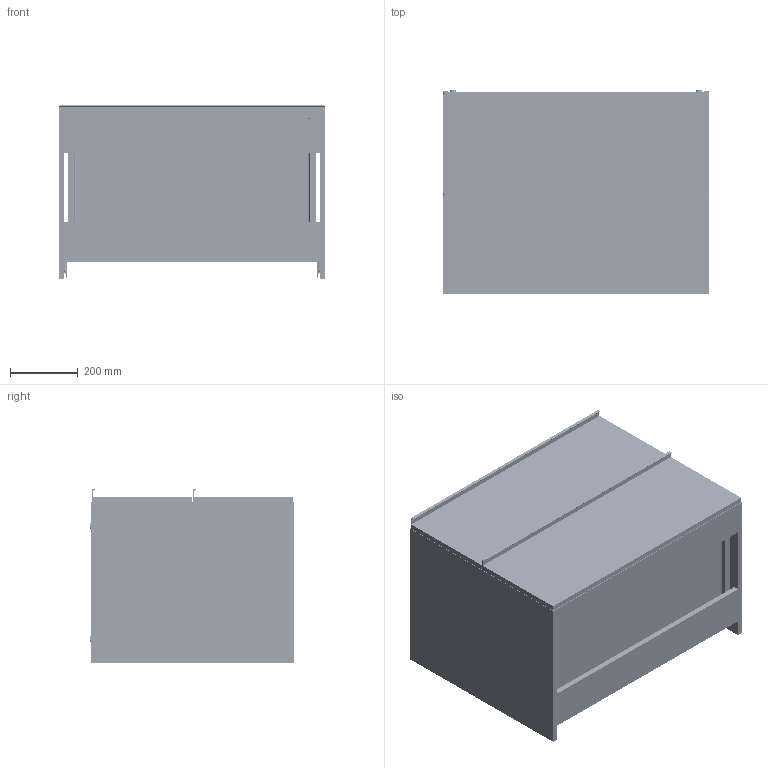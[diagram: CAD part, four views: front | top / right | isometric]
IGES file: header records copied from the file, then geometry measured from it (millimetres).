
Start section: SolidWorks IGES file using analytic representation for surfaces
Global section: file name: \\PDM-SQL\Technolodzy\WYROBY\_Nowa dokumentacja\SZAFKA VIGOUR 80 2S - 167931, 167932, 167933\SZAFKA 80 2S.IGS; native system: SolidWorks 2012; preprocessor: SolidWorks 2012; author: rkopecki; date: 200625.125529; units: millimetre
Bounding box: 790 x 604.5 x 512.55 mm (x, y, z)
Surface area: 5756641 mm2 (no closed solid volume)
Topology: 0 solids, 4 shells, 1986 faces, 23822 edges, 23517 vertices
Faces by surface type: bspline 1024, revolution 962
